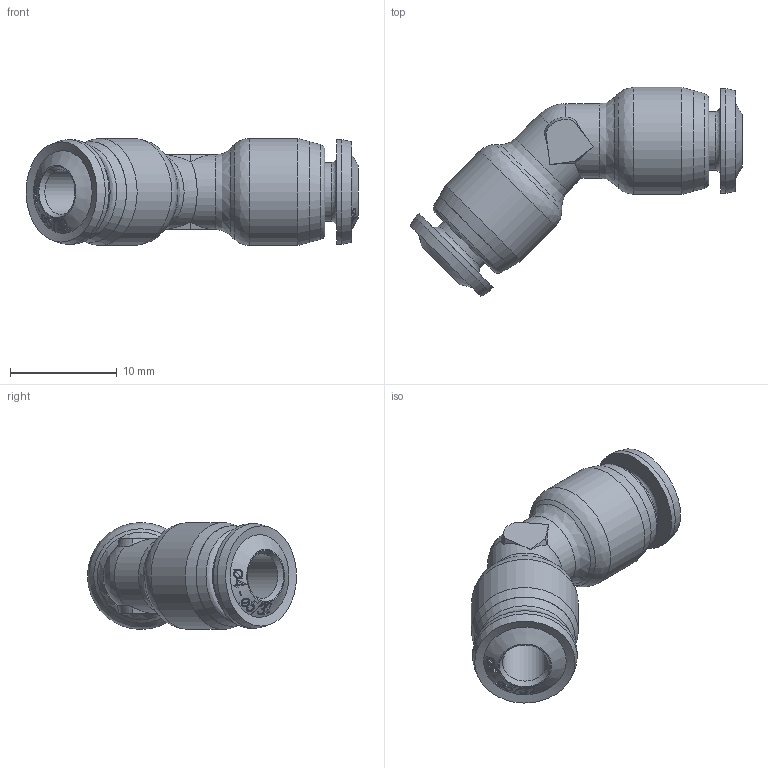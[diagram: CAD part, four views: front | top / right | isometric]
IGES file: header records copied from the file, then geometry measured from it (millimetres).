
Start section: SolidWorks IGES file using analytic representation for surfaces
Global section: file name: K:\Disegni Esecutivi\SERIE 55000\ASSIEMI_55000\55180\55180_igs\5518000002A.IGS; native system: SolidWorks 2012; preprocessor: SolidWorks 2012; author: cad05; date: 131014.170700; units: millimetre
Bounding box: 31.06 x 19.56 x 10 mm (x, y, z)
Surface area: 1452.1 mm2 (no closed solid volume)
Topology: 0 solids, 0 shells, 267 faces, 1406 edges, 1363 vertices
Faces by surface type: bspline 208, revolution 59
